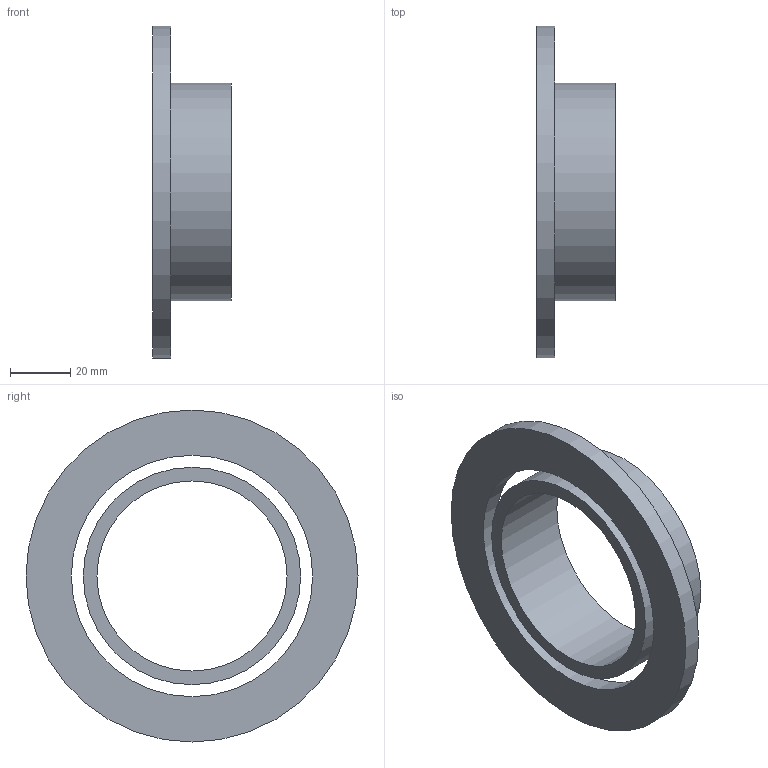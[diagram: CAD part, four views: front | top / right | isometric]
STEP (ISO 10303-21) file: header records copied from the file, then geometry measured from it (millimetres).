
FILE_DESCRIPTION(('Open CASCADE Model'),'2;1');
FILE_NAME('Open CASCADE Shape Model','2026-11-23T20:25:51',('Author'),( 'Open CASCADE'),'Open CASCADE STEP processor 7.9','Open CASCADE 7.9' ,'Unknown');
FILE_SCHEMA(('AUTOMOTIVE_DESIGN { 1 0 10303 214 1 1 1 1 }'));
Length unit declared in the file: millimetre
Products named in the file (3): Open CASCADE STEP translator 7.9 24; Open CASCADE STEP translator 7.9 24.1; Open CASCADE STEP translator 7.9 24.2
Assembly tree (2 placements, depth 2):
  Open CASCADE STEP translator 7.9 24
    Open CASCADE STEP translator 7.9 24.1
    Open CASCADE STEP translator 7.9 24.2
Bounding box: 26 x 110 x 110 mm (x, y, z)
Volume: 51671.3 mm3; surface area: 25470.5 mm2
Topology: 2 solids, 2 shells, 8 faces, 12 edges, 8 vertices
Faces by surface type: cylinder 4, plane 4
Full cylindrical faces by diameter (mm): 63 x1, 72 x1, 80 x1, 110 x1
Entity records: 392 total; most frequent: DIRECTION 66, CARTESIAN_POINT 55, ORIENTED_EDGE 24, PCURVE 24, DEFINITIONAL_REPRESENTATION 24, LINE 20, VECTOR 20, AXIS2_PLACEMENT_3D 19
